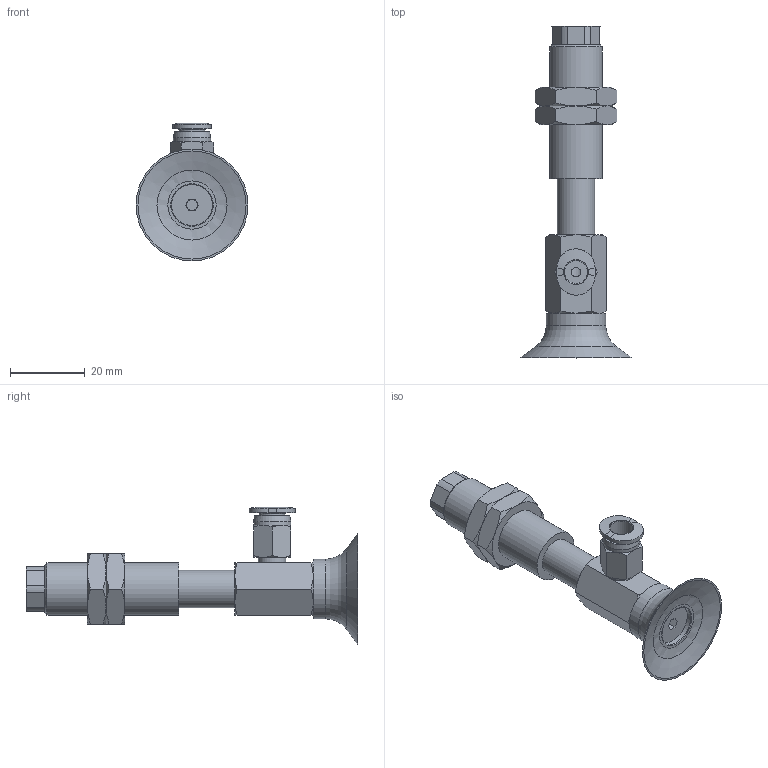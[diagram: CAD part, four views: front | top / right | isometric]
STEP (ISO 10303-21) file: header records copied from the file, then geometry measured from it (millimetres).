
FILE_DESCRIPTION(('STEP AP203'),'1');
FILE_NAME('-O.stp','2025-04-09T07:19:38',(' '),(' '),'Spatial InterOp 3D',' ',' ');
FILE_SCHEMA(('CONFIG_CONTROL_DESIGN'));
Length unit declared in the file: millimetre
Products named in the file (8): BNABPFYS-30-15-※-O; TN-PF-30-M6-NAPF; CONNECTOR-30-15; Nut-30-15-s; NAPFTS-30-15-FBODY; NAPFTS-30-15-MBODY; BPFG-30-※; PC-C_06-M5
Assembly tree (8 placements, depth 2):
  BNABPFYS-30-15-※-O
    TN-PF-30-M6-NAPF
    CONNECTOR-30-15
    Nut-30-15-s  x2
    NAPFTS-30-15-FBODY
    NAPFTS-30-15-MBODY
    BPFG-30-※
    PC-C_06-M5
Bounding box: 30 x 89 x 36.98 mm (x, y, z)
Volume: 14710.8 mm3; surface area: 12532.3 mm2
Topology: 7 solids, 10 shells, 196 faces, 406 edges, 245 vertices
Faces by surface type: plane 83, cone 67, cylinder 31, torus 7, bspline 5, revolution 3
Full cylindrical faces by diameter (mm): 3 x2, 4 x2, 4.134 x2, 4.917 x1, 5 x2, 6 x2, 7 x1, 7.4 x1, 8.2 x1, 10 x3, 11 x2, 12.917 x2, 14 x1, 16 x1
Entity records: 5239 total; most frequent: CARTESIAN_POINT 1471, DIRECTION 703, ORIENTED_EDGE 610, EDGE_CURVE 307, AXIS2_PLACEMENT_3D 301, EDGE_LOOP 250, VERTEX_POINT 213, FACE_OUTER_BOUND 143
